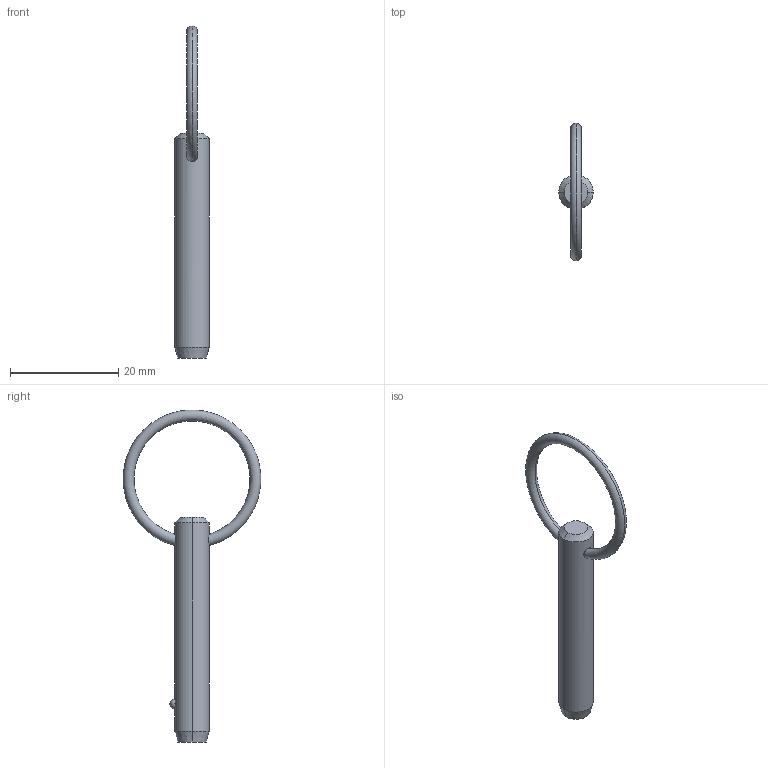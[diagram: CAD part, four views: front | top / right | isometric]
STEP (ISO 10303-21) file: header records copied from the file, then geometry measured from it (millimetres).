
FILE_DESCRIPTION (( 'STEP AP203' ), '1' );
FILE_NAME ('P1250.025-110.step', '2019-07-29T19:39:58', ( '' ), ( '' ), 'SwSTEP 2.0', 'SolidWorks 2017', '' );
FILE_SCHEMA (( 'CONFIG_CONTROL_DESIGN' ));
Length unit declared in the file: millimetre
Products named in the file (1): P1250.025-110
Bounding box: 6.35 x 25.38 x 61.22 mm (x, y, z)
Volume: 1504.8 mm3; surface area: 1283.3 mm2
Topology: 1 solids, 1 shells, 12 faces, 28 edges, 17 vertices
Faces by surface type: cone 4, torus 2, sphere 2, cylinder 2, plane 2
Entity records: 481 total; most frequent: CARTESIAN_POINT 148, DIRECTION 56, ORIENTED_EDGE 48, AXIS2_PLACEMENT_3D 25, EDGE_CURVE 24, EDGE_LOOP 15, VERTEX_POINT 15, CIRCLE 12
